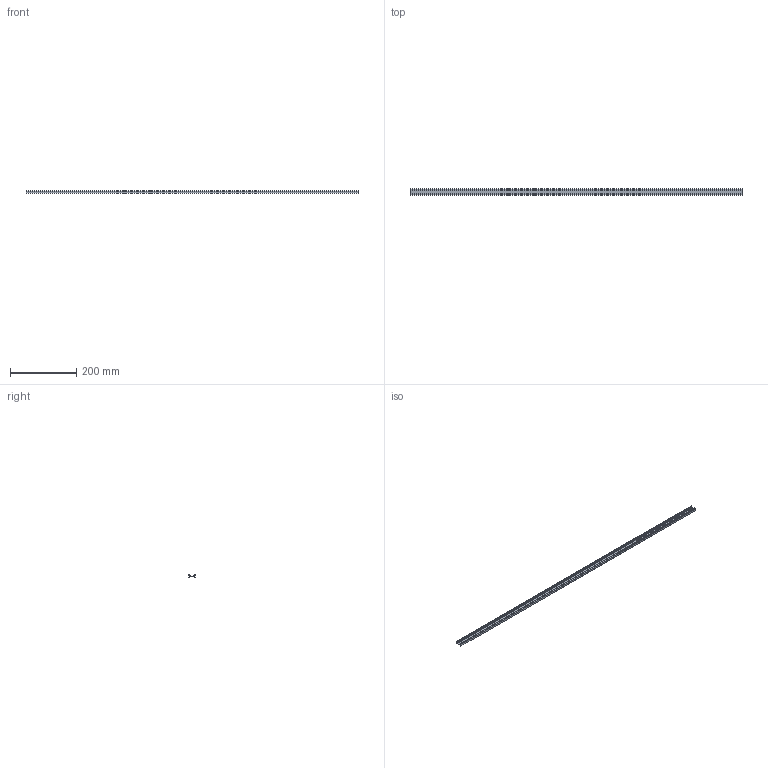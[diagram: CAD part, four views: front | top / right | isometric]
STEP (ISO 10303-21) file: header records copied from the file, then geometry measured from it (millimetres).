
FILE_DESCRIPTION(/* description */ (''),/* implementation_level */ '2;1');
FILE_NAME(/* name */ 'C:\Users\Agata\Desktop\Nowy folder\SURFACE10_uproszczony_R3D.stp',/* time_stamp */ '2026-01-27T13:20:49+01:00',/* author */ ('Agata'),/* organization */ (''),/* preprocessor_version */ 'ST-DEVELOPER v18.1',/* originating_system */ 'Autodesk Inventor 2022',/* authorisation */ '');
FILE_SCHEMA (('AUTOMOTIVE_DESIGN { 1 0 10303 214 3 1 1 }'));
Length unit declared in the file: millimetre
Products named in the file (1): SURFACE10_uproszczony_R3D
Bounding box: 1000 x 20 x 8 mm (x, y, z)
Volume: 49554.6 mm3; surface area: 89382.3 mm2
Topology: 1 solids, 1 shells, 36 faces, 102 edges, 68 vertices
Faces by surface type: plane 34, cylinder 2
Entity records: 1191 total; most frequent: CARTESIAN_POINT 207, ORIENTED_EDGE 204, DIRECTION 180, EDGE_CURVE 102, LINE 98, VECTOR 98, VERTEX_POINT 68, AXIS2_PLACEMENT_3D 41
